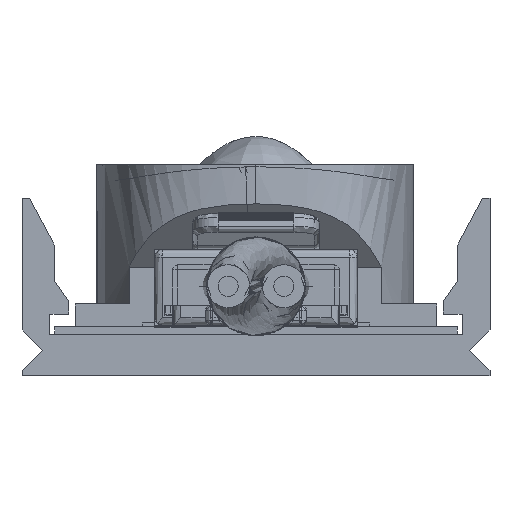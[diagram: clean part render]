
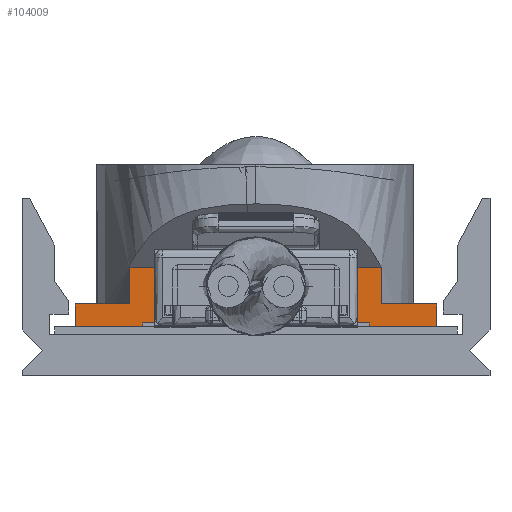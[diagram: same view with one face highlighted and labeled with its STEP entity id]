
A CAD part, left-side view. The second image highlights one B-rep face of the part: STEP entity #104009.
In plain terms, the highlighted planar face has unit normal (-1, 0, 0).
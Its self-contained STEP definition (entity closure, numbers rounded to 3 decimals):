
#2678 = ORIENTED_EDGE ( 'NONE', *, *, #56292, .F. ) ;
#3616 = DIRECTION ( 'NONE',  ( 0., -1., 0. ) ) ;
#4182 = CARTESIAN_POINT ( 'NONE',  ( -6.593, -7.15, 0. ) ) ;
#4383 = ORIENTED_EDGE ( 'NONE', *, *, #110009, .F. ) ;
#5371 = CARTESIAN_POINT ( 'NONE',  ( -6.593, 5.012, 0.9 ) ) ;
#6029 = DIRECTION ( 'NONE',  ( 0., 1., 0. ) ) ;
#8413 = VERTEX_POINT ( 'NONE', #110212 ) ;
#8590 = VECTOR ( 'NONE', #6029, 1000. ) ;
#8808 = VECTOR ( 'NONE', #13894, 1000. ) ;
#9067 = ORIENTED_EDGE ( 'NONE', *, *, #72495, .F. ) ;
#9986 = EDGE_CURVE ( 'NONE', #52193, #64398, #38095, .T. ) ;
#12241 = CARTESIAN_POINT ( 'NONE',  ( -6.593, 12.523, 0.9 ) ) ;
#12582 = VERTEX_POINT ( 'NONE', #60139 ) ;
#13894 = DIRECTION ( 'NONE',  ( 0., 0., -1. ) ) ;
#14529 = VECTOR ( 'NONE', #68315, 1000. ) ;
#14890 = CARTESIAN_POINT ( 'NONE',  ( -6.593, -7.15, -0.74 ) ) ;
#16223 = VECTOR ( 'NONE', #71551, 1000. ) ;
#16851 = LINE ( 'NONE', #75242, #92663 ) ;
#18180 = CARTESIAN_POINT ( 'NONE',  ( -6.593, 5.012, -0.74 ) ) ;
#23975 = CARTESIAN_POINT ( 'NONE',  ( -6.593, 7.15, 0.9 ) ) ;
#26721 = EDGE_CURVE ( 'NONE', #75933, #8413, #67769, .T. ) ;
#29080 = ORIENTED_EDGE ( 'NONE', *, *, #79985, .F. ) ;
#30321 = LINE ( 'NONE', #18180, #16223 ) ;
#30323 = CARTESIAN_POINT ( 'NONE',  ( -6.593, 5.012, 2.36 ) ) ;
#30544 = DIRECTION ( 'NONE',  ( 0., -1., 0. ) ) ;
#31485 = CARTESIAN_POINT ( 'NONE',  ( -6.593, 7.15, 0. ) ) ;
#35750 = PLANE ( 'NONE',  #47751 ) ;
#38095 = LINE ( 'NONE', #68415, #8590 ) ;
#39828 = CARTESIAN_POINT ( 'NONE',  ( -6.593, -4.951, -0.74 ) ) ;
#41556 = DIRECTION ( 'NONE',  ( 0., 0., 1. ) ) ;
#44750 = CARTESIAN_POINT ( 'NONE',  ( -6.593, 12.523, -0.74 ) ) ;
#45557 = VECTOR ( 'NONE', #60807, 1000. ) ;
#47751 = AXIS2_PLACEMENT_3D ( 'NONE', #44750, #53784, #116559 ) ;
#52193 = VERTEX_POINT ( 'NONE', #4182 ) ;
#53784 = DIRECTION ( 'NONE',  ( 1., 0., 0. ) ) ;
#56292 = EDGE_CURVE ( 'NONE', #104936, #69576, #30321, .T. ) ;
#59982 = CARTESIAN_POINT ( 'NONE',  ( -6.593, 7.15, 0. ) ) ;
#60139 = CARTESIAN_POINT ( 'NONE',  ( -6.593, -7.15, 0.9 ) ) ;
#60473 = CARTESIAN_POINT ( 'NONE',  ( -6.593, 12.523, 2.36 ) ) ;
#60807 = DIRECTION ( 'NONE',  ( 0., 0., -1. ) ) ;
#60873 = EDGE_CURVE ( 'NONE', #69576, #75933, #79092, .T. ) ;
#60967 = LINE ( 'NONE', #14890, #45557 ) ;
#64398 = VERTEX_POINT ( 'NONE', #31485 ) ;
#64675 = FACE_OUTER_BOUND ( 'NONE', #107277, .T. ) ;
#67769 = LINE ( 'NONE', #39828, #8808 ) ;
#68315 = DIRECTION ( 'NONE',  ( 0., -1., 0. ) ) ;
#68415 = CARTESIAN_POINT ( 'NONE',  ( -6.593, 0., 0. ) ) ;
#69576 = VERTEX_POINT ( 'NONE', #30323 ) ;
#71551 = DIRECTION ( 'NONE',  ( 0., 0., 1. ) ) ;
#72495 = EDGE_CURVE ( 'NONE', #12582, #52193, #60967, .T. ) ;
#73113 = VECTOR ( 'NONE', #3616, 1000. ) ;
#73338 = VECTOR ( 'NONE', #41556, 1000. ) ;
#75242 = CARTESIAN_POINT ( 'NONE',  ( -6.593, 12.523, 0.9 ) ) ;
#75872 = ORIENTED_EDGE ( 'NONE', *, *, #83888, .F. ) ;
#75911 = LINE ( 'NONE', #12241, #73113 ) ;
#75933 = VERTEX_POINT ( 'NONE', #113555 ) ;
#79092 = LINE ( 'NONE', #60473, #14529 ) ;
#79985 = EDGE_CURVE ( 'NONE', #8413, #12582, #75911, .T. ) ;
#83888 = EDGE_CURVE ( 'NONE', #96833, #104936, #16851, .T. ) ;
#91636 = LINE ( 'NONE', #59982, #73338 ) ;
#92663 = VECTOR ( 'NONE', #30544, 1000. ) ;
#93367 = ORIENTED_EDGE ( 'NONE', *, *, #9986, .F. ) ;
#96833 = VERTEX_POINT ( 'NONE', #23975 ) ;
#104009 = ADVANCED_FACE ( 'NONE', ( #64675 ), #35750, .F. ) ;
#104936 = VERTEX_POINT ( 'NONE', #5371 ) ;
#105453 = ORIENTED_EDGE ( 'NONE', *, *, #26721, .F. ) ;
#107277 = EDGE_LOOP ( 'NONE', ( #2678, #75872, #4383, #93367, #9067, #29080, #105453, #109649 ) ) ;
#109649 = ORIENTED_EDGE ( 'NONE', *, *, #60873, .F. ) ;
#110009 = EDGE_CURVE ( 'NONE', #64398, #96833, #91636, .T. ) ;
#110212 = CARTESIAN_POINT ( 'NONE',  ( -6.593, -4.951, 0.9 ) ) ;
#113555 = CARTESIAN_POINT ( 'NONE',  ( -6.593, -4.951, 2.36 ) ) ;
#116559 = DIRECTION ( 'NONE',  ( 0., 1., 0. ) ) ;
